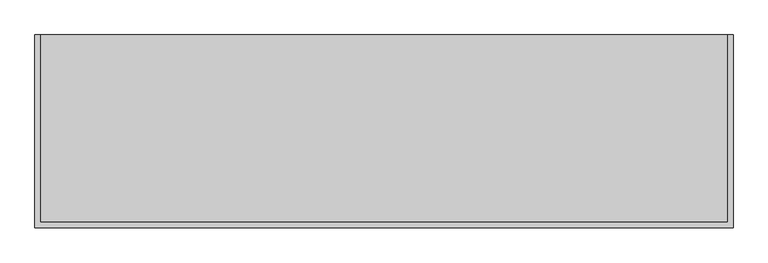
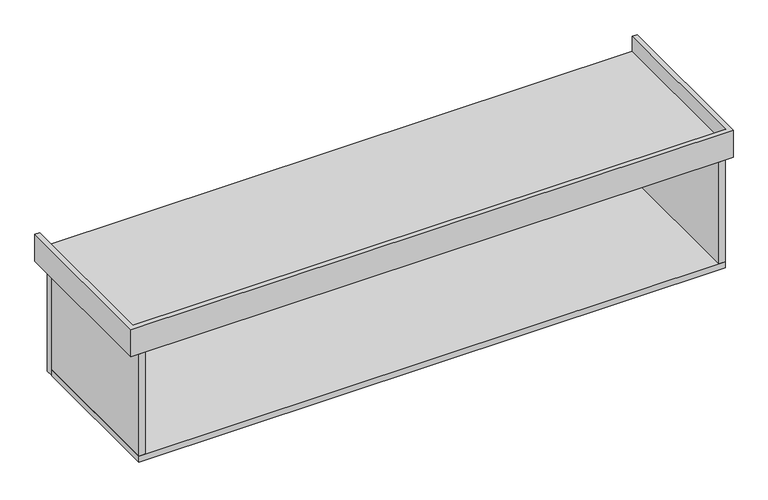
"""IFC4 building model written with IfcOpenShell, lengths in millimetres: furniture geometry, Mueble colgado 1 cajon 1 fijo- lavabo sobreponer : MB10-Mueble baño colgado-1 cajon - 1 fijo."""

from ifc_helpers import new_model, si_unit, frame, origin, place, context, project, spatial, polyline, outline, extrude, faceted_brep, source, transform, mapped, element, save


def furniture_5ef42d0a(model_context):
    return source(origin(), model_context, "Body", "SolidModel", [
        extrude(outline(polyline([(135.0, 550.0), (135.0, 570.0), (1075.0, 570.0), (1075.0, 550.0), (135.0, 550.0)])), frame((0.0, 0.0, 350.0), z_axis=(0.0, 0.0, 1.0), x_axis=(1.0, 0.0, 0.0)), (0.0, 0.0, 1.0), 360.0),
        faceted_brep([(-800.0, 595.0, 800.0), (-785.0, 595.0, 800.0), (-785.0, 595.0, 750.0), (1085.0, 595.0, 750.0), (1085.0, 595.0, 800.0), (1100.0, 595.0, 800.0), (1100.0, 595.0, 710.0), (-800.0, 595.0, 710.0), (-800.0, 70.0, 800.0), (1100.0, 70.0, 800.0), (1085.0, 85.0, 800.0), (-785.0, 85.0, 800.0), (-785.0, 85.0, 750.0), (-800.0, 70.0, 710.0), (1085.0, 85.0, 750.0), (1100.0, 70.0, 710.0)], [[[0, 1, 2, 3, 4, 5, 6, 7]], [[1, 0, 8, 9, 5, 4, 10, 11]], [[2, 1, 11, 12]], [[0, 7, 13, 8]], [[11, 10, 14, 12]], [[9, 8, 13, 15]], [[10, 4, 3, 14]], [[6, 5, 9, 15]], [[3, 2, 12, 14]], [[6, 15, 13, 7]]]),
        extrude(outline(polyline([(125.0, 570.0), (125.0, 550.0), (-775.0, 550.0), (-775.0, 570.0), (125.0, 570.0)])), frame((0.0, 0.0, 350.0), z_axis=(0.0, 0.0, 1.0), x_axis=(1.0, 0.0, 0.0)), (0.0, 0.0, 1.0), 350.0),
        extrude(outline(polyline([(1075.0, 70.0), (1055.0, 70.0), (1055.0, 545.0), (1075.0, 545.0), (1075.0, 70.0)])), frame((0.0, 0.0, 370.0), z_axis=(0.0, 0.0, 1.0), x_axis=(1.0, 0.0, 0.0)), (0.0, 0.0, 1.0), 340.0),
        extrude(outline(polyline([(-755.0, 70.0), (-775.0, 70.0), (-775.0, 545.0), (-755.0, 545.0), (-755.0, 70.0)])), frame((0.0, 0.0, 370.0), z_axis=(0.0, 0.0, 1.0), x_axis=(1.0, 0.0, 0.0)), (0.0, 0.0, 1.0), 340.0),
        extrude(outline(polyline([(1075.0, 545.0), (1075.0, 70.0), (-775.0, 70.0), (-775.0, 545.0), (1075.0, 545.0)])), frame((0.0, 0.0, 350.0), z_axis=(0.0, 0.0, 1.0), x_axis=(1.0, 0.0, 0.0)), (0.0, 0.0, 1.0), 20.0),
    ])


if __name__ == "__main__":
    model = new_model("IFC4")
    model_context = context("Model", 3, world=origin())
    ifc_project = project(units=[si_unit("LENGTHUNIT", "METRE", prefix="MILLI")], contexts=[model_context])
    site = spatial("IfcSite", under=ifc_project)
    building = spatial("IfcBuilding", under=site)
    placement = place(None, origin())
    furniture_shape = furniture_5ef42d0a(model_context)
    element("IfcFurniture", 1, ObjectType="Mueble colgado 1 cajon 1 fijo- lavabo sobreponer : MB10-Mueble baño colgado-1 cajon - 1 fijo", at=placement, inside=building, context=model_context, shape_type="MappedRepresentation", body=[
        mapped(furniture_shape, transform((0.0, 0.0, 0.0), x_axis=(1.0, 0.0, 0.0), y_axis=(0.0, 1.0, 0.0), z_axis=(0.0, 0.0, 1.0))),
    ])
    save(model, "model.ifc")
